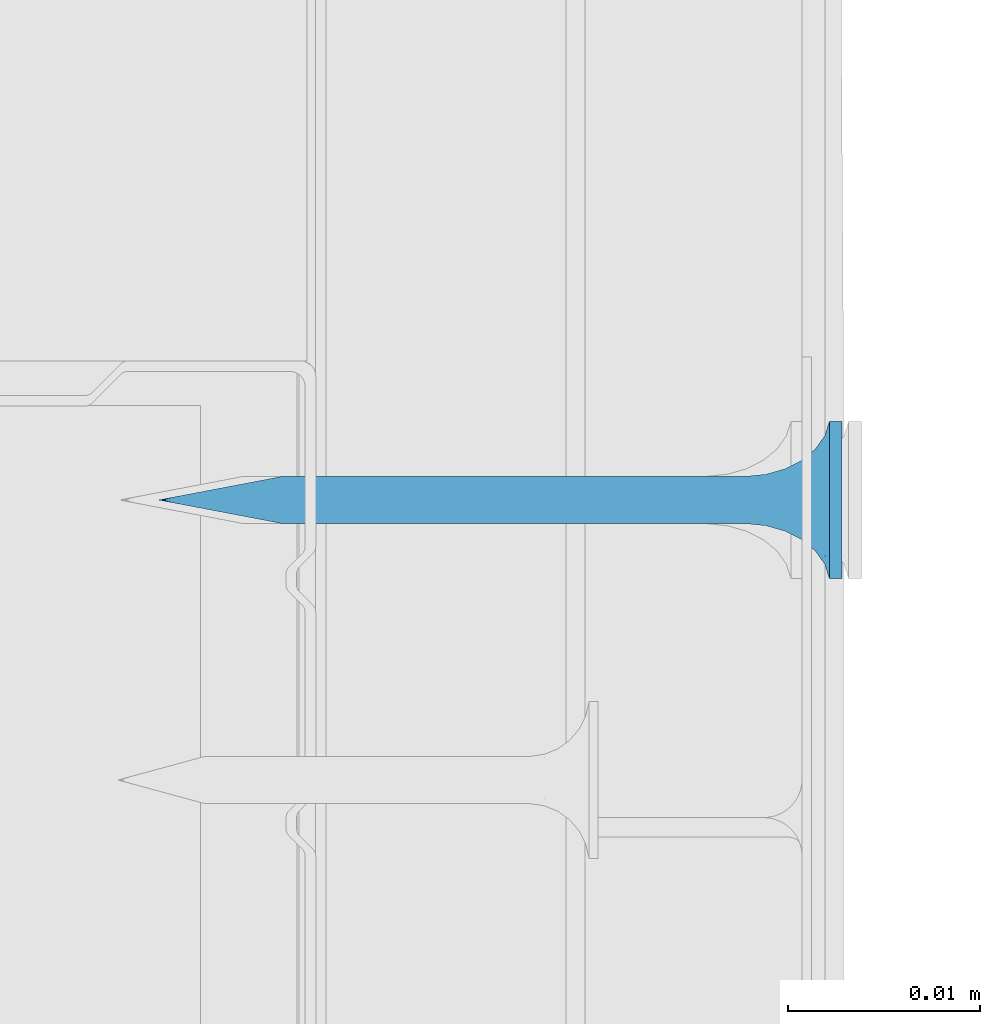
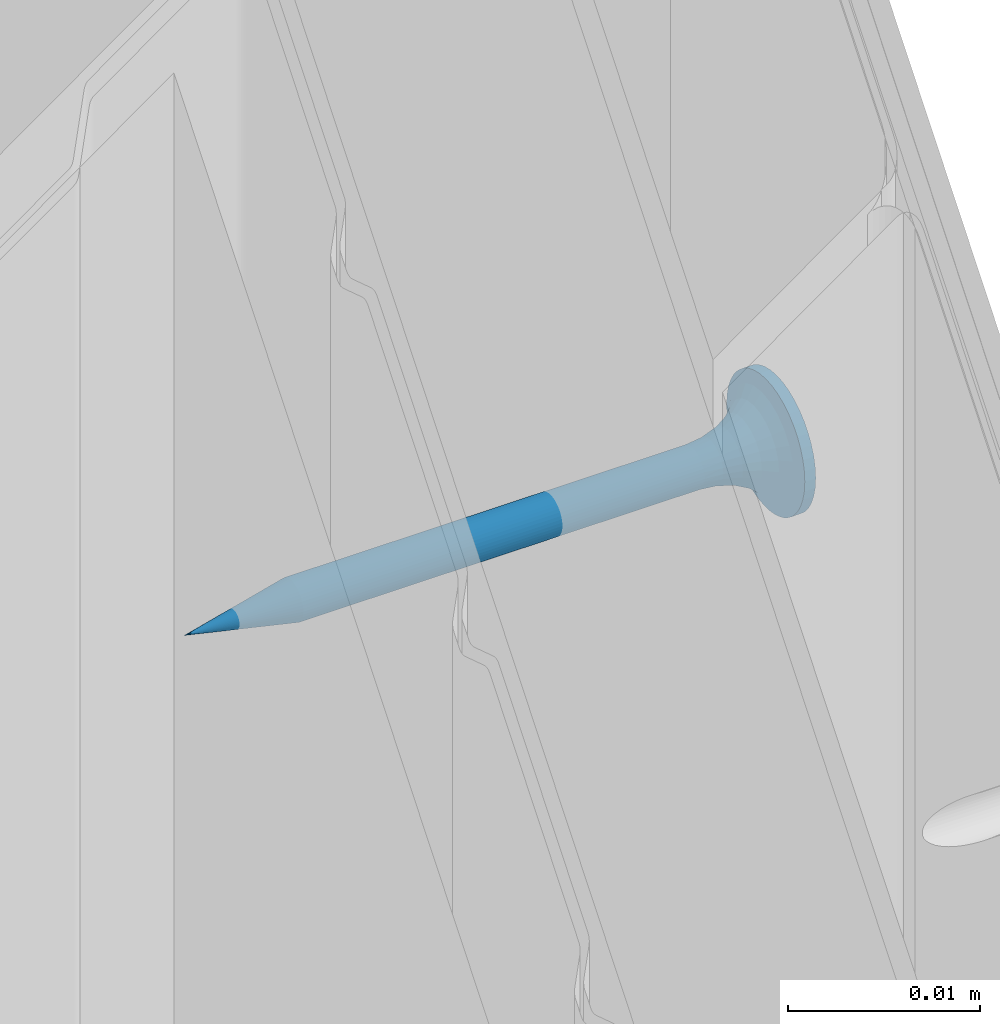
# One storey, part 57 of 89: 1 wall.
"""IFC2X3 building model written with IfcOpenShell, lengths in millimetres."""

from ifc_helpers import new_model, entity, si_unit, converted_unit, direction, frame, origin, origin_with_axes, place, context, project, spatial, faceted_brep, element, save


model = new_model("IFC2X3")

# Units and contexts
model_context = context("Model", 3, precision=1e-05, world=origin(), true_north=direction((0.0, 1.0, 0.0)))
ifc_project = project(units=[si_unit("LENGTHUNIT", "METRE", prefix="MILLI"), si_unit("AREAUNIT", "SQUARE_METRE"), si_unit("VOLUMEUNIT", "CUBIC_METRE"), converted_unit("PLANEANGLEUNIT", "DEGREE", entity("IfcPlaneAngleMeasure", 0.01745), si_unit("PLANEANGLEUNIT", "RADIAN"), dimensions=[0, 0, 0, 0, 0, 0, 0]), si_unit("SOLIDANGLEUNIT", "STERADIAN"), si_unit("MASSUNIT", "GRAM"), si_unit("TIMEUNIT", "SECOND"), si_unit("THERMODYNAMICTEMPERATUREUNIT", "DEGREE_CELSIUS"), si_unit("LUMINOUSINTENSITYUNIT", "LUMEN")], contexts=[model_context])

# Site, building, storey
site_placement = place(None, origin_with_axes())
site = spatial("IfcSite", under=ifc_project, at=site_placement, Name="Default Site", CompositionType="ELEMENT")
building_placement = place(site_placement, origin_with_axes())
building = spatial("IfcBuilding", under=site, at=building_placement, Name="Default Building", CompositionType="ELEMENT")
storey_placement = place(building_placement, origin_with_axes())
storey = spatial("IfcBuildingStorey", under=building, at=storey_placement, Name="Default Building Storey", CompositionType="ELEMENT", Elevation=0.0)

# Wall
wall_placement = place(storey_placement, frame((-1964.902392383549, 1569.934940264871, -323.1579585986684), z_axis=(0.0, 0.0, 1.0), x_axis=(3.748251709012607e-13, 1.0, 0.0)))
element("IfcWall", 1, at=wall_placement, inside=storey, Name="Wkręt RIGIPS TN 35", context=model_context, shape_type="Brep", body=[
    faceted_brep([(-138.5557071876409, -4828.206294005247, 555.2413100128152), (-138.5557071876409, -4804.093757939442, 555.2413100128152), (-138.6296059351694, -4804.093757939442, 555.4197173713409), (-138.6296059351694, -4828.206294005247, 555.4197173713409), (-138.329396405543, -4828.206294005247, 554.9298199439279), (-138.329396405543, -4804.093757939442, 554.9298199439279), (-138.4548091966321, -4804.093757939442, 555.0766594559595), (-138.4548091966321, -4828.206294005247, 555.0766594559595), (-137.0789337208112, -4828.206294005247, 556.9703895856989), (-137.0789337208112, -4804.093757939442, 556.9703895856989), (-136.9005263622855, -4804.093757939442, 556.8964908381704), (-136.9005263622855, -4828.206294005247, 556.8964908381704), (-138.6296059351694, -4804.093757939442, 556.1802826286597), (-138.6296059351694, -4828.206294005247, 556.1802826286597), (-138.6746858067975, -4828.206294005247, 555.9925114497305), (-138.6746858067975, -4804.093757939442, 555.9925114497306), (-138.0179063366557, -4828.206294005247, 554.7035091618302), (-138.0179063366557, -4804.093757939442, 554.7035091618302), (-138.1825568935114, -4804.093757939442, 554.8044071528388), (-138.1825568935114, -4828.206294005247, 554.8044071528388), (-137.83949897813, -4828.206294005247, 554.6296104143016), (-137.83949897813, -4804.093757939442, 554.6296104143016), (-137.4592163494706, -4804.093757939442, 554.5693795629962), (-137.4592163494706, -4828.206294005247, 554.5693795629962), (-137.2667048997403, -4828.206294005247, 554.5845305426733), (-137.2667048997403, -4804.093757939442, 554.5845305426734), (-136.9005263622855, -4804.093757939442, 554.7035091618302), (-136.9005263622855, -4828.206294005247, 554.7035091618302), (-136.7358758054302, -4828.206294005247, 554.8044071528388), (-136.7358758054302, -4804.093757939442, 554.8044071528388), (-138.0179063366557, -4828.206294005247, 556.8964908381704), (-138.0179063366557, -4804.093757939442, 556.8964908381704), (-137.83949897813, -4804.093757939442, 556.9703895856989), (-137.83949897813, -4828.206294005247, 556.9703895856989), (-136.3627255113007, -4828.206294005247, 556.3586899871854), (-136.3627255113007, -4804.093757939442, 556.3586899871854), (-136.2888267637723, -4804.093757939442, 556.1802826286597), (-136.2888267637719, -4828.206294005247, 556.1802826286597), (-138.329396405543, -4828.206294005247, 556.6701800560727), (-138.329396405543, -4804.093757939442, 556.6701800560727), (-138.1825568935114, -4804.093757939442, 556.7955928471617), (-138.1825568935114, -4828.206294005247, 556.7955928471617), (-138.6746858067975, -4804.093757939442, 555.60748855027), (-138.6746858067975, -4828.206294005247, 555.60748855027), (-137.2667048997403, -4828.206294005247, 557.0154694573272), (-137.2667048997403, -4804.093757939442, 557.0154694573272), (-136.2888267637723, -4804.093757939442, 555.4197173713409), (-136.2888267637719, -4828.206294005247, 555.4197173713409), (-136.2437468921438, -4828.206294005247, 555.60748855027), (-136.2437468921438, -4804.093757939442, 555.60748855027), (-136.5890362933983, -4828.206294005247, 554.9298199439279), (-136.5890362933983, -4804.093757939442, 554.9298199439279), (-137.651727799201, -4828.206294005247, 554.5845305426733), (-137.651727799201, -4804.093757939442, 554.5845305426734), (-136.4636235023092, -4828.206294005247, 555.0766594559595), (-136.4636235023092, -4804.093757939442, 555.0766594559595), (-136.7358758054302, -4804.093757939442, 556.7955928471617), (-136.7358758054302, -4828.206294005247, 556.7955928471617), (-136.3627255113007, -4804.093757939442, 555.2413100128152), (-136.3627255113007, -4828.206294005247, 555.2413100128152), (-136.2437468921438, -4828.206294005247, 555.9925114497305), (-136.2437468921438, -4804.093757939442, 555.9925114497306), (-136.2285959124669, -4804.093757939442, 555.8000000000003), (-136.2285959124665, -4828.206294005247, 555.8000000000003), (-138.6898367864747, -4828.206294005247, 555.8000000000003), (-138.6898367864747, -4804.093757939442, 555.8000000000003), (-136.5890362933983, -4828.206294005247, 556.6701800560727), (-136.5890362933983, -4804.093757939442, 556.6701800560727), (-136.4636235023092, -4804.093757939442, 556.5233405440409), (-136.4636235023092, -4828.206294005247, 556.5233405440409), (-137.0789337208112, -4804.093757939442, 554.6296104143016), (-137.0789337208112, -4828.206294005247, 554.6296104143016), (-137.4592163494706, -4804.093757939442, 557.0306204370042), (-137.4592163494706, -4828.206294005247, 557.0306204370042), (-137.651727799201, -4828.206294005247, 557.0154694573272), (-137.651727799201, -4804.093757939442, 557.0154694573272), (-138.5557071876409, -4804.093757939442, 556.3586899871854), (-138.5557071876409, -4828.206294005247, 556.3586899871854), (-138.4548091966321, -4828.206294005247, 556.5233405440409), (-138.4548091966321, -4804.093757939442, 556.5233405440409), (-141.5377463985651, -4832.598051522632, 555.8000000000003), (-141.5377463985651, -4833.259713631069, 555.8000000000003), (-141.4875329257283, -4833.259713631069, 555.1619773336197), (-141.4875329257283, -4832.598051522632, 555.1619773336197), (-141.3381289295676, -4833.259713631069, 554.5396649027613), (-141.3381289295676, -4832.598051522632, 554.5396649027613), (-141.0932132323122, -4833.259713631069, 553.9483861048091), (-141.0932132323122, -4832.598051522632, 553.9483861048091), (-140.7588164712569, -4833.259713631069, 553.4027001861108), (-140.7588164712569, -4832.598051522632, 553.4027001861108), (-140.3431726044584, -4833.259713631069, 552.9160437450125), (-140.4541727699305, -4832.598051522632, 553.0314907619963), (-140.1080097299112, -4832.598051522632, 552.6986614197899), (-139.8565161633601, -4833.259713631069, 552.500399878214), (-139.7251262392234, -4832.598051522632, 552.4088262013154), (-139.3108302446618, -4833.259713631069, 552.1660031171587), (-139.3108302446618, -4832.598051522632, 552.1660031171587), (-138.8708651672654, -4832.598051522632, 551.9735584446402), (-138.7195514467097, -4833.259713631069, 551.9210874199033), (-138.4113302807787, -4832.598051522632, 551.8341600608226), (-137.9385961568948, -4832.598051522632, 551.7497404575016), (-138.0972390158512, -4833.259713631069, 551.7716834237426), (-137.4592163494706, -4833.259713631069, 551.7214699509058), (-137.4592163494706, -4832.598051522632, 551.7214699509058), (-136.8211936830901, -4833.259713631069, 551.7716834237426), (-136.8211936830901, -4832.598051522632, 551.7716834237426), (-136.1988812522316, -4833.259713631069, 551.9210874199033), (-136.1988812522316, -4832.598051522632, 551.9210874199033), (-135.6076024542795, -4833.259713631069, 552.1660031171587), (-135.6076024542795, -4832.598051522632, 552.1660031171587), (-135.0619165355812, -4833.259713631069, 552.500399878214), (-135.0619165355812, -4832.598051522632, 552.500399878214), (-134.5752600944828, -4833.259713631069, 552.9160437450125), (-134.5752600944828, -4832.598051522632, 552.9160437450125), (-134.1596162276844, -4833.259713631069, 553.4027001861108), (-134.1596162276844, -4832.598051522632, 553.4027001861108), (-133.8252194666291, -4833.259713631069, 553.9483861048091), (-133.8252194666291, -4832.598051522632, 553.9483861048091), (-133.5803037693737, -4833.259713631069, 554.5396649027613), (-133.5803037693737, -4832.598051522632, 554.5396649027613), (-133.430899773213, -4833.259713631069, 556.4380226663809), (-133.430899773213, -4832.598051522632, 556.4380226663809), (-133.3806863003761, -4832.598051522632, 555.8000000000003), (-133.3806863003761, -4833.259713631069, 555.8000000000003), (-133.430899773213, -4832.598051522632, 555.1619773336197), (-133.430899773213, -4833.259713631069, 555.1619773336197), (-133.5803037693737, -4833.259713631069, 557.0603350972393), (-133.5803037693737, -4832.598051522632, 557.0603350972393), (-133.8252194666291, -4833.259713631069, 557.6516138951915), (-133.8252194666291, -4832.598051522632, 557.6516138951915), (-134.1596162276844, -4833.259713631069, 558.1972998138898), (-134.1596162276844, -4832.598051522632, 558.1972998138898), (-134.5752600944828, -4833.259713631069, 558.6839562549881), (-134.5752600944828, -4832.598051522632, 558.6839562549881), (-135.0619165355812, -4833.259713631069, 559.0996001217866), (-135.0619165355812, -4832.598051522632, 559.0996001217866), (-135.6076024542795, -4833.259713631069, 559.4339968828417), (-135.6076024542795, -4832.598051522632, 559.4339968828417), (-136.1988812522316, -4833.259713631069, 559.6789125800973), (-136.1988812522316, -4832.598051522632, 559.6789125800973), (-136.8211936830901, -4833.259713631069, 559.8283165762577), (-136.8211936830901, -4832.598051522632, 559.8283165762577), (-137.4592163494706, -4833.259713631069, 559.8785300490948), (-137.4592163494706, -4832.598051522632, 559.8785300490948), (-138.0972390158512, -4833.259713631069, 559.8283165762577), (-138.0972390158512, -4832.598051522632, 559.8283165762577), (-138.7195514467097, -4833.259713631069, 559.6789125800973), (-138.7195514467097, -4832.598051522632, 559.6789125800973), (-139.3108302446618, -4833.259713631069, 559.4339968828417), (-139.3108302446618, -4832.598051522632, 559.4339968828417), (-139.8565161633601, -4833.259713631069, 559.0996001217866), (-139.8565161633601, -4832.598051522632, 559.0996001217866), (-140.3431726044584, -4833.259713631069, 558.6839562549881), (-140.3431726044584, -4832.598051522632, 558.6839562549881), (-140.7588164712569, -4833.259713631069, 558.1972998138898), (-140.7588164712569, -4832.598051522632, 558.1972998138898), (-141.0932132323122, -4833.259713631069, 557.6516138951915), (-141.0932132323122, -4832.598051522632, 557.6516138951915), (-141.3381289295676, -4833.259713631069, 557.0603350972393), (-141.3381289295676, -4832.598051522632, 557.0603350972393), (-141.4875329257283, -4833.259713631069, 556.4380226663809), (-141.4875329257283, -4832.598051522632, 556.4380226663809), (-137.8060615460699, -4829.281368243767, 554.5055560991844), (-137.4592163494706, -4829.281368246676, 554.4598930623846), (-138.1292698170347, -4829.281368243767, 554.6394333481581), (-138.4068150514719, -4829.281368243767, 554.8524012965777), (-138.6197830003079, -4829.281368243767, 555.1299465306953), (-138.7536602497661, -4829.281368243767, 555.4531548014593), (-138.7993232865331, -4829.281368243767, 555.7999999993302), (-138.753660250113, -4829.281368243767, 556.1468451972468), (-138.6197830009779, -4829.281368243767, 556.4700534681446), (-138.4068150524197, -4829.281368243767, 556.7475987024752), (-138.1292698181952, -4829.281368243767, 556.9605666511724), (-137.8060615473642, -4829.281368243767, 557.0944439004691), (-137.4592163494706, -4829.281368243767, 557.1401069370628), (-137.112371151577, -4829.281368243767, 557.0944439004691), (-136.7891628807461, -4829.281368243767, 556.9605666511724), (-136.5116176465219, -4829.281368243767, 556.7475987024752), (-136.2986496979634, -4829.281368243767, 556.4700534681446), (-136.1647724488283, -4829.281368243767, 556.1468451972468), (-136.1191094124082, -4829.281368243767, 555.7999999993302), (-136.1647724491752, -4829.281368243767, 555.4531548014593), (-136.2986496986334, -4829.281368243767, 555.1299465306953), (-136.5116176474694, -4829.281368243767, 554.8524012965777), (-136.7891628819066, -4829.281368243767, 554.6394333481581), (-137.1123711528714, -4829.281368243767, 554.5055560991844), (-137.4592163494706, -4830.288222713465, 554.1737111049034), (-137.8801308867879, -4830.288222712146, 554.229125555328), (-138.2723607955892, -4830.288222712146, 554.3915925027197), (-138.6091762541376, -4830.288222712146, 554.6500400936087), (-138.8676238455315, -4830.288222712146, 554.9868555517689), (-139.0300907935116, -4830.288222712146, 555.3790854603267), (-139.0855052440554, -4830.288222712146, 555.7999999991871), (-139.0300907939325, -4830.288222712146, 556.220914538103), (-138.8676238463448, -4830.288222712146, 556.6131444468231), (-138.6091762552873, -4830.288222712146, 556.9499599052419), (-138.2723607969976, -4830.288222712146, 557.2084074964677), (-137.8801308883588, -4830.288222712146, 557.3708744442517), (-137.4592163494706, -4830.288222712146, 557.426288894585), (-137.0383018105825, -4830.288222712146, 557.3708744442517), (-136.6460719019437, -4830.288222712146, 557.2084074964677), (-136.309256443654, -4830.288222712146, 556.9499599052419), (-136.0508088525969, -4830.288222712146, 556.6131444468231), (-135.8883419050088, -4830.288222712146, 556.220914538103), (-135.8329274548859, -4830.288222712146, 555.7999999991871), (-135.8883419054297, -4830.288222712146, 555.3790854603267), (-136.0508088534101, -4830.288222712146, 554.9868555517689), (-136.309256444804, -4830.288222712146, 554.6500400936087), (-136.6460719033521, -4830.288222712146, 554.3915925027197), (-137.0383018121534, -4830.288222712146, 554.229125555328), (-137.4592163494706, -4831.168773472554, 553.7273431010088), (-137.9956594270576, -4831.168773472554, 553.7979671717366), (-138.4955447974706, -4831.168773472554, 554.0050264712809), (-138.9248060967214, -4831.168773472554, 554.3344102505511), (-139.2541898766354, -4831.168773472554, 554.763671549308), (-139.4612491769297, -4831.168773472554, 555.2635569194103), (-139.5318732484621, -4831.168773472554, 555.799999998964), (-139.461249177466, -4831.168773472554, 556.3364430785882), (-139.2541898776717, -4831.168773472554, 556.8363284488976), (-138.9248060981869, -4831.168773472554, 557.2655897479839), (-138.4955447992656, -4831.168773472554, 557.594973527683), (-137.9956594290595, -4831.168773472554, 557.8020328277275), (-137.4592163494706, -4831.168773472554, 557.8726568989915), (-136.9227732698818, -4831.168773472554, 557.8020328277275), (-136.4228878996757, -4831.168773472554, 557.594973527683), (-135.9936266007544, -4831.168773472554, 557.2655897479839), (-135.6642428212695, -4831.168773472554, 556.8363284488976), (-135.4571835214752, -4831.168773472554, 556.3364430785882), (-135.3865594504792, -4831.168773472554, 555.799999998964), (-135.4571835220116, -4831.168773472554, 555.2635569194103), (-135.6642428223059, -4831.168773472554, 554.763671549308), (-135.9936266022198, -4831.168773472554, 554.3344102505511), (-136.4228879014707, -4831.168773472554, 554.0050264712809), (-136.9227732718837, -4831.168773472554, 553.7979671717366), (-137.4592163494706, -4831.872222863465, 553.1465393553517), (-138.1459824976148, -4831.872222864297, 553.2369538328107), (-138.7859466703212, -4831.872222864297, 553.5020356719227), (-139.3354963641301, -4831.872222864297, 553.9237199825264), (-139.7571806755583, -4831.872222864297, 554.4732696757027), (-140.02226251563, -4831.872222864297, 555.1132338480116), (-140.1126769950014, -4831.872222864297, 555.7999999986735), (-140.0222625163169, -4831.872222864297, 556.4867661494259), (-139.7571806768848, -4831.872222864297, 557.1267303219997), (-139.3354963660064, -4831.872222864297, 557.6762800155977), (-138.785946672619, -4831.872222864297, 558.097964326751), (-138.1459825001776, -4831.872222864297, 558.363046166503), (-137.4592163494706, -4831.872222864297, 558.4534606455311), (-136.7724501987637, -4831.872222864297, 558.363046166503), (-136.1324860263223, -4831.872222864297, 558.097964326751), (-135.5829363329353, -4831.872222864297, 557.6762800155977), (-135.1612520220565, -4831.872222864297, 557.1267303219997), (-134.8961701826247, -4831.872222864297, 556.4867661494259), (-134.8057557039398, -4831.872222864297, 555.7999999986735), (-134.8961701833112, -4831.872222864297, 555.1132338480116), (-135.161252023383, -4831.872222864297, 554.4732696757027), (-135.5829363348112, -4831.872222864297, 553.9237199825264), (-136.1324860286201, -4831.872222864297, 553.5020356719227), (-136.7724502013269, -4831.872222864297, 553.2369538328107), (-137.4592163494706, -4832.357989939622, 552.4648055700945), (-138.3224281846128, -4832.357989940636, 552.578449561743), (-139.1268135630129, -4832.357989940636, 552.9116368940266), (-139.8175549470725, -4832.357989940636, 553.4416613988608), (-140.3475794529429, -4832.357989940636, 554.1324027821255), (-140.6807667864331, -4832.357989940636, 554.936788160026), (-140.7944107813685, -4832.357989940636, 555.7999999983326), (-140.6807667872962, -4832.357989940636, 556.663211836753), (-140.3475794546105, -4832.357989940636, 557.4675972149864), (-139.817554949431, -4832.357989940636, 558.1583385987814), (-139.1268135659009, -4832.357989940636, 558.6883631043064), (-138.3224281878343, -4832.357989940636, 559.0215504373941), (-137.4592163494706, -4832.357989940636, 559.1351944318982), (-136.5960045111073, -4832.357989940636, 559.0215504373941), (-135.7916191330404, -4832.357989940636, 558.6883631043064), (-135.1008777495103, -4832.357989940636, 558.1583385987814), (-134.5708532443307, -4832.357989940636, 557.4675972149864), (-134.2376659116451, -4832.357989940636, 556.663211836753), (-134.1240219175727, -4832.357989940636, 555.7999999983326), (-134.2376659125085, -4832.357989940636, 554.936788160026), (-134.5708532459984, -4832.357989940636, 554.1324027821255), (-135.1008777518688, -4832.357989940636, 553.4416613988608), (-135.7916191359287, -4832.357989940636, 552.9116368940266), (-136.5960045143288, -4832.357989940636, 552.578449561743), (-137.4592163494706, -4797.627063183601, 555.8000000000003), (-139.9592163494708, -4833.259713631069, 556.3000000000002), (-137.9592163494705, -4833.259713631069, 556.3000000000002), (-139.9592163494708, -4833.259713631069, 555.3000000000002), (-137.9592163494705, -4833.259713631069, 555.3000000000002), (-137.9592163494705, -4833.259713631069, 553.3000000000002), (-136.9592163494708, -4833.259713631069, 553.3000000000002), (-136.9592163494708, -4833.259713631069, 555.3000000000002), (-134.9592163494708, -4833.259713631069, 555.3000000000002), (-134.9592163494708, -4833.259713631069, 556.3000000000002), (-136.9592163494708, -4833.259713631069, 556.3000000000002), (-136.9592163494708, -4833.259713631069, 558.3000000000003), (-137.9592163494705, -4833.259713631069, 558.3000000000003), (-136.9592163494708, -4831.988379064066, 556.3000000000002), (-134.9592163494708, -4831.988379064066, 556.3000000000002), (-134.9592163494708, -4831.988379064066, 555.3000000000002), (-136.9592163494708, -4831.988379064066, 555.3000000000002), (-136.9592163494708, -4831.988379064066, 553.3000000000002), (-137.9592163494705, -4831.988379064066, 553.3000000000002), (-137.9592163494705, -4831.988379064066, 555.3000000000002), (-139.9592163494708, -4831.988379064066, 555.3000000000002), (-139.9592163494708, -4831.988379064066, 556.3000000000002), (-137.9592163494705, -4831.988379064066, 556.3000000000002), (-137.9592163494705, -4831.988379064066, 558.3000000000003), (-136.9592163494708, -4831.988379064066, 558.3000000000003)], [[[0, 1, 2, 3]], [[4, 5, 6, 7]], [[8, 9, 10, 11]], [[12, 13, 14, 15]], [[1, 0, 7, 6]], [[16, 17, 18, 19]], [[20, 21, 17, 16]], [[22, 23, 24, 25]], [[26, 27, 28, 29]], [[30, 31, 32, 33]], [[34, 35, 36, 37]], [[38, 39, 40, 41]], [[3, 2, 42, 43]], [[9, 8, 44, 45]], [[46, 47, 48, 49]], [[50, 51, 29, 28]], [[5, 4, 19, 18]], [[21, 20, 52, 53]], [[23, 22, 53, 52]], [[51, 50, 54, 55]], [[11, 10, 56, 57]], [[47, 46, 58, 59]], [[60, 61, 62, 63]], [[64, 65, 15, 14]], [[37, 36, 61, 60]], [[66, 67, 68, 69]], [[27, 26, 70, 71]], [[71, 70, 25, 24]], [[59, 58, 55, 54]], [[63, 62, 49, 48]], [[35, 34, 69, 68]], [[67, 66, 57, 56]], [[72, 73, 74, 75]], [[13, 12, 76, 77]], [[73, 72, 45, 44]], [[39, 38, 78, 79]], [[33, 32, 75, 74]], [[77, 76, 79, 78]], [[31, 30, 41, 40]], [[65, 64, 43, 42]], [[80, 81, 82, 83]], [[84, 85, 83, 82]], [[86, 87, 85, 84]], [[87, 86, 88, 89]], [[88, 90, 89]], [[90, 91, 89]], [[92, 91, 93]], [[91, 90, 93]], [[93, 94, 92]], [[93, 95, 94]], [[95, 96, 94]], [[97, 96, 98]], [[96, 95, 98]], [[98, 99, 97]], [[100, 99, 101]], [[99, 98, 101]], [[101, 102, 100]], [[102, 103, 100]], [[103, 102, 104, 105]], [[106, 107, 105, 104]], [[108, 109, 107, 106]], [[109, 108, 110, 111]], [[112, 113, 111, 110]], [[113, 112, 114, 115]], [[116, 117, 115, 114]], [[118, 119, 117, 116]], [[120, 121, 122, 123]], [[123, 122, 124, 125]], [[119, 118, 125, 124]], [[126, 127, 121, 120]], [[128, 129, 127, 126]], [[129, 128, 130, 131]], [[132, 133, 131, 130]], [[133, 132, 134, 135]], [[136, 137, 135, 134]], [[138, 139, 137, 136]], [[139, 138, 140, 141]], [[142, 143, 141, 140]], [[143, 142, 144, 145]], [[146, 147, 145, 144]], [[148, 149, 147, 146]], [[149, 148, 150, 151]], [[152, 153, 151, 150]], [[153, 152, 154, 155]], [[156, 157, 155, 154]], [[158, 159, 157, 156]], [[159, 158, 160, 161]], [[81, 80, 161, 160]], [[162, 23, 52]], [[162, 163, 23]], [[52, 20, 162]], [[162, 20, 164]], [[16, 164, 20]], [[164, 16, 19]], [[19, 165, 164]], [[19, 4, 165]], [[166, 4, 7]], [[166, 165, 4]], [[7, 0, 166]], [[166, 0, 167]], [[3, 167, 0]], [[167, 3, 43]], [[43, 168, 167]], [[43, 64, 168]], [[169, 64, 14]], [[169, 168, 64]], [[14, 13, 169]], [[169, 13, 170]], [[77, 170, 13]], [[170, 77, 78]], [[78, 171, 170]], [[78, 38, 171]], [[172, 38, 41]], [[172, 171, 38]], [[41, 30, 172]], [[172, 30, 173]], [[33, 173, 30]], [[173, 33, 74]], [[74, 174, 173]], [[74, 73, 174]], [[175, 73, 44]], [[175, 174, 73]], [[44, 8, 175]], [[175, 8, 176]], [[11, 176, 8]], [[176, 11, 57]], [[57, 177, 176]], [[57, 66, 177]], [[178, 66, 69]], [[178, 177, 66]], [[69, 34, 178]], [[178, 34, 179]], [[37, 179, 34]], [[179, 37, 60]], [[60, 180, 179]], [[60, 63, 180]], [[181, 63, 48]], [[181, 180, 63]], [[48, 47, 181]], [[181, 47, 182]], [[59, 182, 47]], [[182, 59, 54]], [[54, 183, 182]], [[54, 50, 183]], [[184, 50, 28]], [[184, 183, 50]], [[28, 27, 184]], [[184, 27, 185]], [[71, 185, 27]], [[185, 71, 24]], [[24, 163, 185]], [[24, 23, 163]], [[186, 163, 187]], [[162, 187, 163]], [[164, 188, 187, 162]], [[165, 189, 188, 164]], [[166, 190, 189, 165]], [[167, 191, 190, 166]], [[168, 192, 191, 167]], [[169, 193, 192, 168]], [[170, 194, 193, 169]], [[171, 195, 194, 170]], [[172, 196, 195, 171]], [[173, 197, 196, 172]], [[174, 198, 197, 173]], [[175, 199, 198, 174]], [[176, 200, 199, 175]], [[177, 201, 200, 176]], [[178, 202, 201, 177]], [[179, 203, 202, 178]], [[180, 204, 203, 179]], [[181, 205, 204, 180]], [[182, 206, 205, 181]], [[183, 207, 206, 182]], [[184, 208, 207, 183]], [[185, 209, 208, 184]], [[185, 163, 209]], [[186, 209, 163]], [[210, 186, 211]], [[187, 211, 186]], [[188, 212, 211, 187]], [[189, 213, 212, 188]], [[190, 214, 213, 189]], [[191, 215, 214, 190]], [[192, 216, 215, 191]], [[193, 217, 216, 192]], [[194, 218, 217, 193]], [[195, 219, 218, 194]], [[196, 220, 219, 195]], [[197, 221, 220, 196]], [[198, 222, 221, 197]], [[199, 223, 222, 198]], [[200, 224, 223, 199]], [[201, 225, 224, 200]], [[202, 226, 225, 201]], [[203, 227, 226, 202]], [[204, 228, 227, 203]], [[205, 229, 228, 204]], [[206, 230, 229, 205]], [[207, 231, 230, 206]], [[208, 232, 231, 207]], [[209, 233, 232, 208]], [[209, 186, 233]], [[210, 233, 186]], [[234, 210, 235]], [[211, 235, 210]], [[212, 236, 235, 211]], [[213, 237, 236, 212]], [[214, 238, 237, 213]], [[215, 239, 238, 214]], [[216, 240, 239, 215]], [[217, 241, 240, 216]], [[218, 242, 241, 217]], [[219, 243, 242, 218]], [[220, 244, 243, 219]], [[221, 245, 244, 220]], [[222, 246, 245, 221]], [[223, 247, 246, 222]], [[224, 248, 247, 223]], [[225, 249, 248, 224]], [[226, 250, 249, 225]], [[227, 251, 250, 226]], [[228, 252, 251, 227]], [[229, 253, 252, 228]], [[230, 254, 253, 229]], [[231, 255, 254, 230]], [[232, 256, 255, 231]], [[233, 257, 256, 232]], [[233, 210, 257]], [[234, 257, 210]], [[258, 99, 100]], [[258, 259, 99]], [[100, 103, 258]], [[258, 234, 259]], [[235, 259, 234]], [[259, 96, 97]], [[259, 260, 96]], [[97, 99, 259]], [[236, 260, 259, 235]], [[261, 91, 92]], [[260, 92, 94]], [[260, 261, 92]], [[94, 96, 260]], [[237, 261, 260, 236]], [[262, 87, 89]], [[89, 261, 262]], [[89, 91, 261]], [[238, 262, 261, 237]], [[85, 87, 263]], [[262, 263, 87]], [[239, 263, 262, 238]], [[263, 80, 83]], [[263, 264, 80]], [[83, 85, 263]], [[240, 264, 263, 239]], [[265, 159, 161]], [[161, 264, 265]], [[161, 80, 264]], [[241, 265, 264, 240]], [[265, 266, 157, 159]], [[242, 266, 265, 241]], [[266, 153, 155]], [[266, 267, 153]], [[155, 157, 266]], [[243, 267, 266, 242]], [[268, 149, 151]], [[151, 267, 268]], [[151, 153, 267]], [[244, 268, 267, 243]], [[268, 269, 147, 149]], [[245, 269, 268, 244]], [[269, 143, 145]], [[269, 270, 143]], [[145, 147, 269]], [[246, 270, 269, 245]], [[271, 139, 141]], [[141, 270, 271]], [[141, 143, 270]], [[247, 271, 270, 246]], [[271, 272, 137, 139]], [[248, 272, 271, 247]], [[272, 133, 135]], [[272, 273, 133]], [[135, 137, 272]], [[249, 273, 272, 248]], [[274, 129, 131]], [[131, 273, 274]], [[131, 133, 273]], [[250, 274, 273, 249]], [[274, 275, 127, 129]], [[251, 275, 274, 250]], [[275, 122, 121]], [[275, 276, 122]], [[121, 127, 275]], [[252, 276, 275, 251]], [[277, 119, 124]], [[124, 276, 277]], [[124, 122, 276]], [[253, 277, 276, 252]], [[117, 119, 278]], [[277, 278, 119]], [[254, 278, 277, 253]], [[278, 113, 115]], [[278, 279, 113]], [[115, 117, 278]], [[255, 279, 278, 254]], [[280, 109, 111]], [[111, 279, 280]], [[111, 113, 279]], [[256, 280, 279, 255]], [[107, 109, 281]], [[280, 281, 109]], [[257, 281, 280, 256]], [[257, 234, 281]], [[258, 281, 234]], [[281, 103, 105]], [[281, 258, 103]], [[105, 107, 281]], [[42, 2, 282]], [[282, 65, 42]], [[2, 1, 282]], [[6, 5, 282]], [[282, 1, 6]], [[18, 17, 282]], [[282, 5, 18]], [[17, 21, 282]], [[53, 22, 282]], [[282, 21, 53]], [[25, 70, 282]], [[282, 22, 25]], [[70, 26, 282]], [[29, 51, 282]], [[282, 26, 29]], [[55, 58, 282]], [[282, 51, 55]], [[58, 46, 282]], [[49, 62, 282]], [[282, 46, 49]], [[61, 36, 282]], [[282, 62, 61]], [[36, 35, 282]], [[68, 67, 282]], [[282, 35, 68]], [[56, 10, 282]], [[282, 67, 56]], [[10, 9, 282]], [[45, 72, 282]], [[282, 9, 45]], [[75, 32, 282]], [[282, 72, 75]], [[32, 31, 282]], [[40, 39, 282]], [[282, 31, 40]], [[79, 76, 282]], [[282, 39, 79]], [[76, 12, 282]], [[15, 65, 282]], [[282, 12, 15]], [[283, 156, 154, 284]], [[283, 285, 286, 287, 288, 289, 290, 291, 292, 293, 294, 284, 154, 152, 150, 148, 146, 144, 142, 140, 138, 136, 134, 132, 130, 128, 126, 120, 123, 125, 118, 116, 114, 112, 110, 108, 106, 104, 102, 101, 98, 95, 93, 90, 88, 86, 84, 82, 81, 160, 158, 156]], [[295, 296, 297, 298, 299, 300, 301, 302, 303, 304, 305, 306]], [[297, 290, 289, 298]], [[296, 291, 290, 297]], [[295, 292, 291, 296]], [[306, 293, 292, 295]], [[305, 294, 293, 306]], [[304, 284, 294, 305]], [[303, 283, 284, 304]], [[302, 285, 283, 303]], [[301, 286, 285, 302]], [[300, 287, 286, 301]], [[299, 288, 287, 300]], [[298, 289, 288, 299]]]),
])

save(model, "model.ifc")
